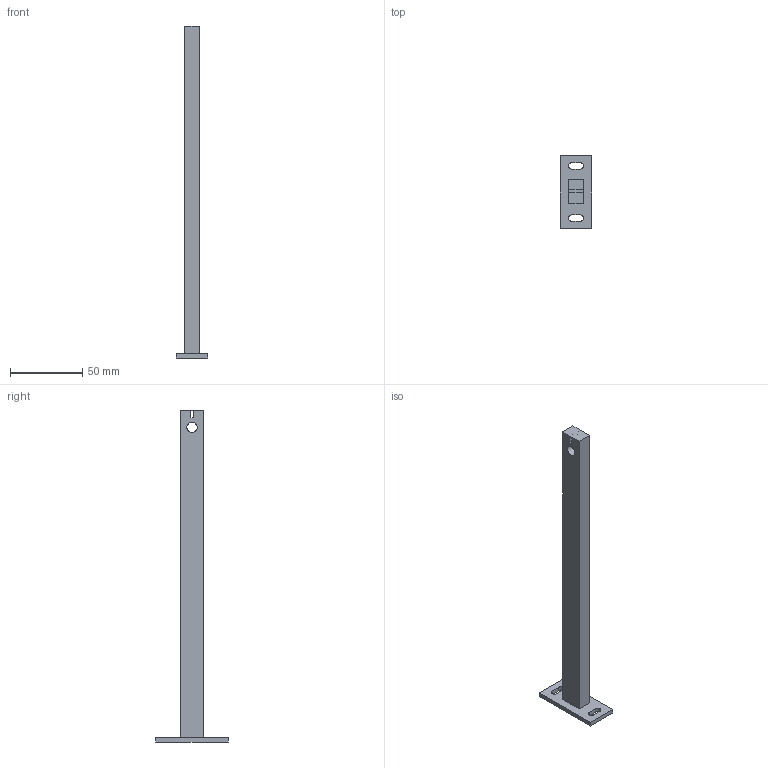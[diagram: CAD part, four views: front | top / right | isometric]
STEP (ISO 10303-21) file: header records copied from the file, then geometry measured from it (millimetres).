
FILE_DESCRIPTION(('Open CASCADE Model'),'2;1');
FILE_NAME('Open CASCADE Shape Model','2026-10-23T08:22:12',('Author'),( 'Open CASCADE'),'Open CASCADE STEP processor 7.9','Open CASCADE 7.9' ,'Unknown');
FILE_SCHEMA(('AUTOMOTIVE_DESIGN { 1 0 10303 214 1 1 1 1 }'));
Length unit declared in the file: millimetre
Products named in the file (1): Open CASCADE STEP translator 7.9 13
Bounding box: 22 x 50 x 229 mm (x, y, z)
Volume: 38673.6 mm3; surface area: 14659.5 mm2
Topology: 1 solids, 1 shells, 25 faces, 66 edges, 44 vertices
Faces by surface type: plane 19, cylinder 6
Full cylindrical faces by diameter (mm): 2.5 x1, 7.2 x1
Entity records: 1914 total; most frequent: CARTESIAN_POINT 535, DIRECTION 256, LINE 173, VECTOR 173, ORIENTED_EDGE 132, PCURVE 132, DEFINITIONAL_REPRESENTATION 132, EDGE_CURVE 66
